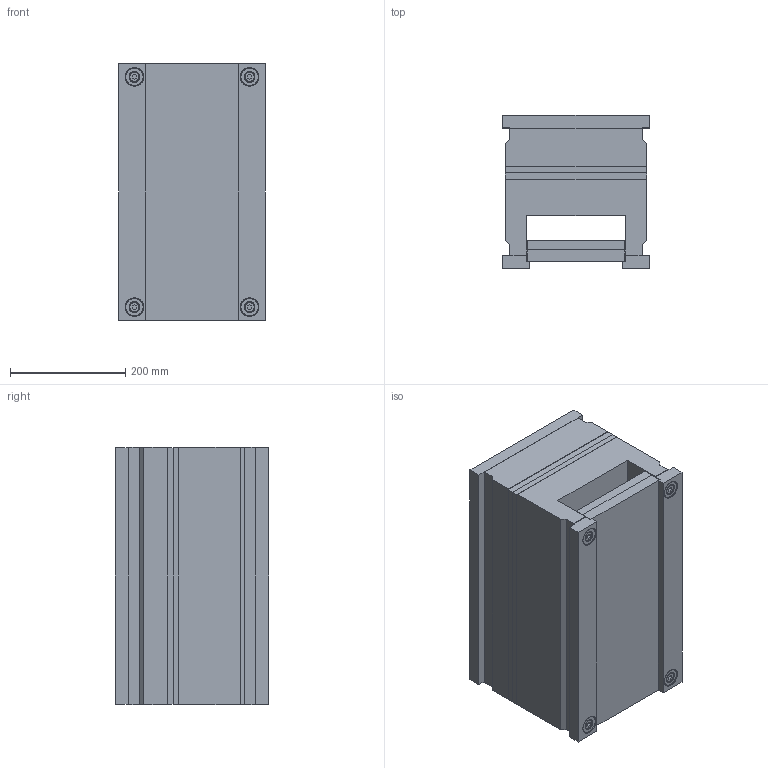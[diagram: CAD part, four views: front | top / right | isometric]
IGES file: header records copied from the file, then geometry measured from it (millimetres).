
Start section: SolidWorks IGES FILE using analytic representation for surfaces
Global section: file name: C:\Documents and Settings\K.P\My Documents\Mechanical\ALMO\CATL_EUR\RECT\2465.IGS; native system: SolidWorks 2001Plus by SolidWorks Corporation; preprocessor: Version 5.3; author: Pavel; date: 020709.092413; units: millimetre
Bounding box: 255 x 266 x 448 mm (x, y, z)
Surface area: 1429581.8 mm2 (no closed solid volume)
Topology: 0 solids, 0 shells, 706 faces, 11944 edges, 11936 vertices
Faces by surface type: revolution 452, bspline 254
